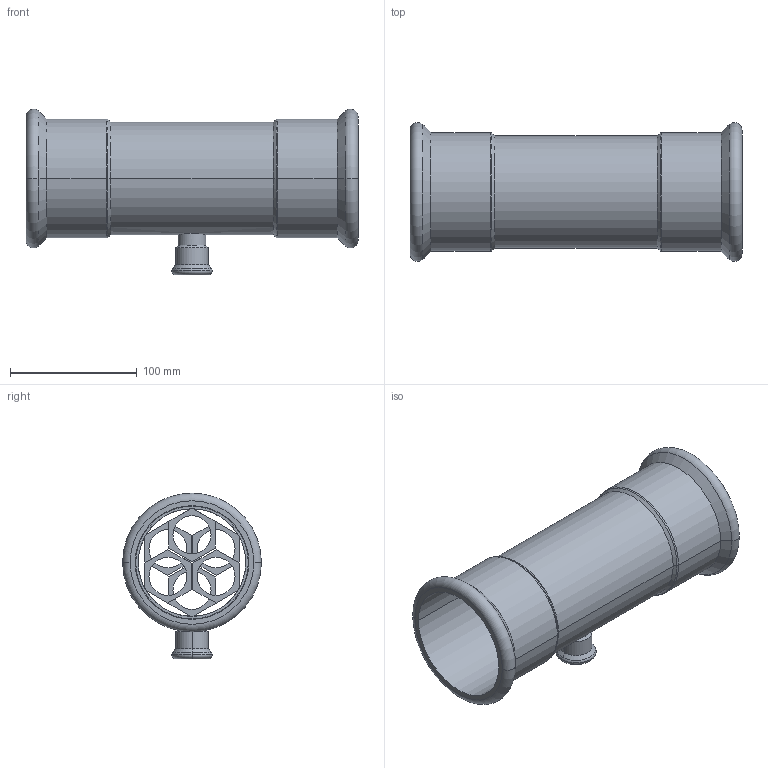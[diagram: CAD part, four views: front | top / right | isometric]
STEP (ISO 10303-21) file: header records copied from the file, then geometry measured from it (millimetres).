
FILE_DESCRIPTION(('OneSpaceDesigner STEP Export'),'2;1');
FILE_NAME('R2715 89x22x89.stp','2010-06-10T 9:29:42',(''),(''),'OneSpace Designer STEP processor for AP214 (Solid Model)','OneSpace Modeling 15.00A 14-Mar-2007 (C) CoCreate Software GmbH','');
FILE_SCHEMA(('AUTOMOTIVE_DESIGN { 1 0 10303 214 1 1 1 1 }'));
Length unit declared in the file: millimetre
Products named in the file (2): R2715_89x22x89
Assembly tree (1 placements, depth 2):
  R2715_89x22x89
    R2715_89x22x89
Bounding box: 262 x 109.48 x 130.74 mm (x, y, z)
Volume: 222512.6 mm3; surface area: 173031.8 mm2
Topology: 1 solids, 1 shells, 168 faces, 419 edges, 270 vertices
Faces by surface type: plane 90, cylinder 54, torus 12, cone 12
Entity records: 5588 total; most frequent: CARTESIAN_POINT 1851, ORIENTED_EDGE 838, DIRECTION 659, EDGE_CURVE 419, VERTEX_POINT 270, VECTOR 263, LINE 263, EDGE_LOOP 205
